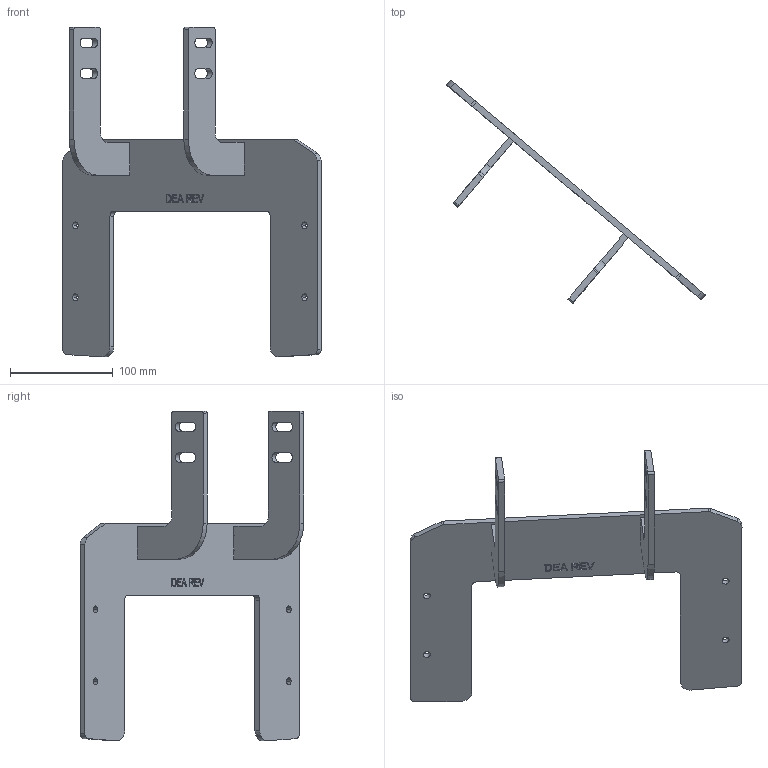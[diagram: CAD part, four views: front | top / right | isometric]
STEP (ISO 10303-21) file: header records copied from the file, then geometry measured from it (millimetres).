
FILE_DESCRIPTION (( 'STEP AP214' ), '1' );
FILE_NAME ('ALS XXL Konsole REV.STEP', '2024-10-14T11:19:22', ( '' ), ( '' ), 'SwSTEP 2.0', 'SolidWorks 2024', '' );
FILE_SCHEMA (( 'AUTOMOTIVE_DESIGN' ));
Length unit declared in the file: millimetre
Products named in the file (1): ALS XXL Konsole REV
Bounding box: 251.52 x 217.74 x 320.8 mm (x, y, z)
Volume: 311138.9 mm3; surface area: 119742 mm2
Topology: 3 solids, 3 shells, 210 faces, 585 edges, 390 vertices
Faces by surface type: plane 118, cylinder 72, bspline 20
Entity records: 6918 total; most frequent: CARTESIAN_POINT 1430, ORIENTED_EDGE 1170, DIRECTION 1071, EDGE_CURVE 585, VECTOR 401, LINE 401, VERTEX_POINT 390, AXIS2_PLACEMENT_3D 335
